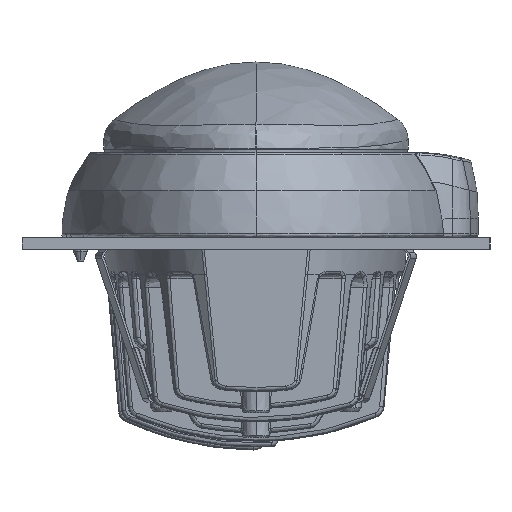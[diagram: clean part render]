
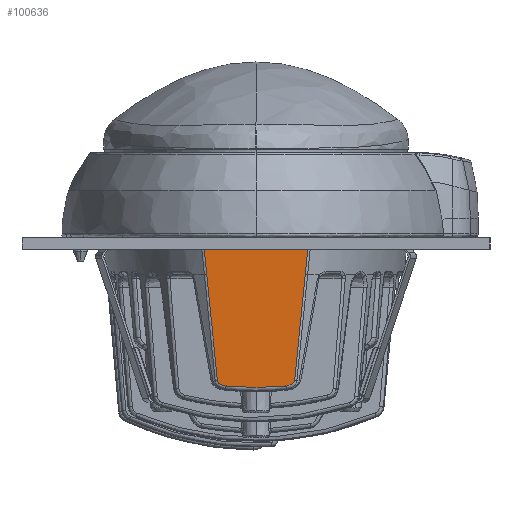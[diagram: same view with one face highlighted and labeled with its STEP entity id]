
A CAD part, left-side view. The second image highlights one B-rep face of the part: STEP entity #100636.
In plain terms, the highlighted planar face has unit normal (-0.999, 0, -0.035).
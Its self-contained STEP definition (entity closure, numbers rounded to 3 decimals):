
#100560=AXIS2_PLACEMENT_3D('Plane Axis2P3D',#100557,#100558,#100559) ;
#94915=CARTESIAN_POINT('Vertex',(-78.483,13.549,-18.033)) ;
#94937=CARTESIAN_POINT('Line Origine',(-78.483,0.,-18.033)) ;
#94941=CARTESIAN_POINT('Vertex',(-78.483,-13.549,-18.033)) ;
#100539=CARTESIAN_POINT('Vertex',(-78.153,12.631,-27.498)) ;
#100543=CARTESIAN_POINT('Control Point',(-78.483,13.549,-18.033)) ;
#100544=CARTESIAN_POINT('Control Point',(-78.417,13.367,-19.927)) ;
#100545=CARTESIAN_POINT('Control Point',(-78.351,13.184,-21.82)) ;
#100546=CARTESIAN_POINT('Control Point',(-78.285,13.,-23.713)) ;
#100547=CARTESIAN_POINT('Control Point',(-78.219,12.816,-25.605)) ;
#100548=CARTESIAN_POINT('Control Point',(-78.153,12.631,-27.498)) ;
#100557=CARTESIAN_POINT('Axis2P3D Location',(-78.5,0.,-17.55)) ;
#100563=CARTESIAN_POINT('Control Point',(-78.153,-12.631,-27.498)) ;
#100564=CARTESIAN_POINT('Control Point',(-77.916,-11.971,-34.261)) ;
#100565=CARTESIAN_POINT('Control Point',(-77.681,-11.301,-41.009)) ;
#100566=CARTESIAN_POINT('Control Point',(-77.444,-10.615,-47.779)) ;
#100567=CARTESIAN_POINT('Control Point',(-77.208,-9.906,-54.561)) ;
#100568=CARTESIAN_POINT('Vertex',(-77.208,-9.906,-54.561)) ;
#100570=CARTESIAN_POINT('Vertex',(-78.153,-12.631,-27.498)) ;
#100574=CARTESIAN_POINT('Control Point',(-78.153,-12.631,-27.498)) ;
#100575=CARTESIAN_POINT('Control Point',(-78.263,-12.939,-24.344)) ;
#100576=CARTESIAN_POINT('Control Point',(-78.373,-13.245,-21.188)) ;
#100577=CARTESIAN_POINT('Control Point',(-78.483,-13.549,-18.033)) ;
#100580=CARTESIAN_POINT('Control Point',(-77.208,9.906,-54.561)) ;
#100581=CARTESIAN_POINT('Control Point',(-77.444,10.613,-47.799)) ;
#100582=CARTESIAN_POINT('Control Point',(-77.679,11.296,-41.053)) ;
#100583=CARTESIAN_POINT('Control Point',(-77.916,11.969,-34.279)) ;
#100584=CARTESIAN_POINT('Control Point',(-78.153,12.631,-27.498)) ;
#100585=CARTESIAN_POINT('Vertex',(-77.208,9.906,-54.561)) ;
#100589=CARTESIAN_POINT('Control Point',(-77.208,9.906,-54.561)) ;
#100590=CARTESIAN_POINT('Control Point',(-77.201,9.887,-54.745)) ;
#100591=CARTESIAN_POINT('Control Point',(-77.195,9.83,-54.926)) ;
#100592=CARTESIAN_POINT('Control Point',(-77.189,9.734,-55.091)) ;
#100593=CARTESIAN_POINT('Control Point',(-77.179,9.502,-55.369)) ;
#100594=CARTESIAN_POINT('Control Point',(-77.172,9.205,-55.577)) ;
#100595=CARTESIAN_POINT('Control Point',(-77.169,9.052,-55.662)) ;
#100596=CARTESIAN_POINT('Control Point',(-77.163,8.694,-55.825)) ;
#100597=CARTESIAN_POINT('Control Point',(-77.16,8.317,-55.931)) ;
#100598=CARTESIAN_POINT('Control Point',(-77.158,8.104,-55.975)) ;
#100599=CARTESIAN_POINT('Control Point',(-77.157,7.89,-56.008)) ;
#100600=CARTESIAN_POINT('Control Point',(-77.156,7.677,-56.031)) ;
#100601=CARTESIAN_POINT('Vertex',(-77.156,7.677,-56.031)) ;
#100605=CARTESIAN_POINT('Control Point',(-77.156,7.677,-56.031)) ;
#100606=CARTESIAN_POINT('Control Point',(-77.137,2.577,-56.578)) ;
#100607=CARTESIAN_POINT('Control Point',(-77.137,-2.577,-56.578)) ;
#100608=CARTESIAN_POINT('Control Point',(-77.156,-7.677,-56.031)) ;
#100609=CARTESIAN_POINT('Vertex',(-77.156,-7.677,-56.031)) ;
#100613=CARTESIAN_POINT('Control Point',(-77.156,-7.677,-56.031)) ;
#100614=CARTESIAN_POINT('Control Point',(-77.157,-7.89,-56.008)) ;
#100615=CARTESIAN_POINT('Control Point',(-77.158,-8.104,-55.975)) ;
#100616=CARTESIAN_POINT('Control Point',(-77.16,-8.317,-55.93)) ;
#100617=CARTESIAN_POINT('Control Point',(-77.163,-8.694,-55.825)) ;
#100618=CARTESIAN_POINT('Control Point',(-77.169,-9.053,-55.662)) ;
#100619=CARTESIAN_POINT('Control Point',(-77.172,-9.205,-55.577)) ;
#100620=CARTESIAN_POINT('Control Point',(-77.179,-9.502,-55.369)) ;
#100621=CARTESIAN_POINT('Control Point',(-77.189,-9.734,-55.091)) ;
#100622=CARTESIAN_POINT('Control Point',(-77.195,-9.83,-54.925)) ;
#100623=CARTESIAN_POINT('Control Point',(-77.201,-9.887,-54.745)) ;
#100624=CARTESIAN_POINT('Control Point',(-77.208,-9.906,-54.561)) ;
#94938=DIRECTION('Vector Direction',(0.,1.,0.)) ;
#100558=DIRECTION('Axis2P3D Direction',(0.999,0.,0.035)) ;
#100559=DIRECTION('Axis2P3D XDirection',(0.,-1.,0.)) ;
#94939=VECTOR('Line Direction',#94938,1.) ;
#100627=ORIENTED_EDGE('',*,*,#100572,.T.) ;
#100628=ORIENTED_EDGE('',*,*,#100578,.T.) ;
#100629=ORIENTED_EDGE('',*,*,#94943,.T.) ;
#100630=ORIENTED_EDGE('',*,*,#100549,.T.) ;
#100631=ORIENTED_EDGE('',*,*,#100587,.T.) ;
#100632=ORIENTED_EDGE('',*,*,#100603,.T.) ;
#100633=ORIENTED_EDGE('',*,*,#100611,.T.) ;
#100634=ORIENTED_EDGE('',*,*,#100625,.T.) ;
#100636=ADVANCED_FACE('Housing gr',(#100635),#100561,.F.) ;
#100542=B_SPLINE_CURVE_WITH_KNOTS('',5,(#100543,#100544,#100545,#100546,#100547,#100548),.UNSPECIFIED.,.F.,.U.,(6,6),(11.929,25.403),.UNSPECIFIED.) ;
#100562=B_SPLINE_CURVE_WITH_KNOTS('',4,(#100563,#100564,#100565,#100566,#100567),.UNSPECIFIED.,.F.,.U.,(5,5),(25.425,64.045),.UNSPECIFIED.) ;
#100573=B_SPLINE_CURVE_WITH_KNOTS('',3,(#100574,#100575,#100576,#100577),.UNSPECIFIED.,.F.,.U.,(4,4),(53.438,66.896),.UNSPECIFIED.) ;
#100579=B_SPLINE_CURVE_WITH_KNOTS('',4,(#100580,#100581,#100582,#100583,#100584),.UNSPECIFIED.,.F.,.U.,(5,5),(14.855,53.417),.UNSPECIFIED.) ;
#100588=B_SPLINE_CURVE_WITH_KNOTS('',5,(#100589,#100590,#100591,#100592,#100593,#100594,#100595,#100596,#100597,#100598,#100599,#100600),.UNSPECIFIED.,.F.,.U.,(6,3,3,6),(0.764,2.331,3.799,5.675),.UNSPECIFIED.) ;
#100604=B_SPLINE_CURVE_WITH_KNOTS('',3,(#100605,#100606,#100607,#100608),.UNSPECIFIED.,.F.,.U.,(4,4),(17.175,39.066),.UNSPECIFIED.) ;
#100612=B_SPLINE_CURVE_WITH_KNOTS('',5,(#100613,#100614,#100615,#100616,#100617,#100618,#100619,#100620,#100621,#100622,#100623,#100624),.UNSPECIFIED.,.F.,.U.,(6,3,3,6),(1.536,3.413,4.882,6.449),.UNSPECIFIED.) ;
#94943=EDGE_CURVE('',#94942,#94916,#94940,.T.) ;
#100549=EDGE_CURVE('',#94916,#100540,#100542,.T.) ;
#100572=EDGE_CURVE('',#100569,#100571,#100562,.F.) ;
#100578=EDGE_CURVE('',#100571,#94942,#100573,.T.) ;
#100587=EDGE_CURVE('',#100540,#100586,#100579,.F.) ;
#100603=EDGE_CURVE('',#100586,#100602,#100588,.T.) ;
#100611=EDGE_CURVE('',#100602,#100610,#100604,.T.) ;
#100625=EDGE_CURVE('',#100610,#100569,#100612,.T.) ;
#100626=EDGE_LOOP('',(#100627,#100628,#100629,#100630,#100631,#100632,#100633,#100634)) ;
#100635=FACE_OUTER_BOUND('',#100626,.T.) ;
#94940=LINE('Line',#94937,#94939) ;
#100561=PLANE('',#100560) ;
#94916=VERTEX_POINT('',#94915) ;
#94942=VERTEX_POINT('',#94941) ;
#100540=VERTEX_POINT('',#100539) ;
#100569=VERTEX_POINT('',#100568) ;
#100571=VERTEX_POINT('',#100570) ;
#100586=VERTEX_POINT('',#100585) ;
#100602=VERTEX_POINT('',#100601) ;
#100610=VERTEX_POINT('',#100609) ;
